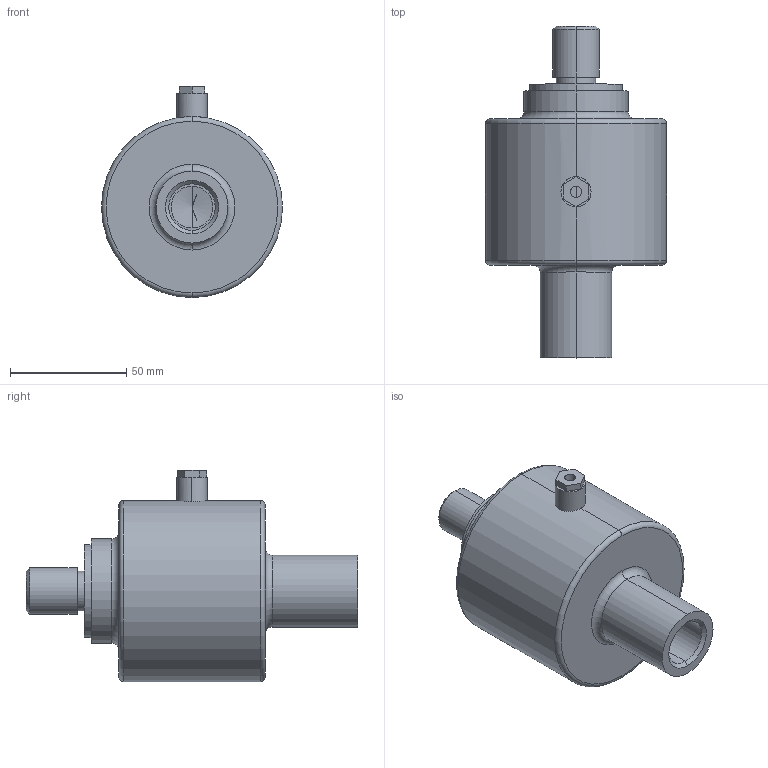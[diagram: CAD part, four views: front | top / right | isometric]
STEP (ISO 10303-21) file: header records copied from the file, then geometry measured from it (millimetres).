
FILE_DESCRIPTION((''),'1');
FILE_NAME('LFLB_M20_5000_kg.step','2024-05-28T14:27:42',(''),(''),'','','');
FILE_SCHEMA(('AUTOMOTIVE_DESIGN { 1 0 10303 214 1 1 1 1 }'));
Products named in the file (1): LFLB M20_5000_kg
Bounding box: 78 x 143 x 91 mm (x, y, z)
Volume: 353283.4 mm3; surface area: 34526.9 mm2
Topology: 1 solids, 1 shells, 52 faces, 112 edges, 69 vertices
Faces by surface type: cylinder 22, plane 16, torus 8, cone 6
Entity records: 1560 total; most frequent: CARTESIAN_POINT 376, DIRECTION 264, ORIENTED_EDGE 220, EDGE_CURVE 110, AXIS2_PLACEMENT_3D 109, VERTEX_POINT 69, EDGE_LOOP 61, CIRCLE 56
